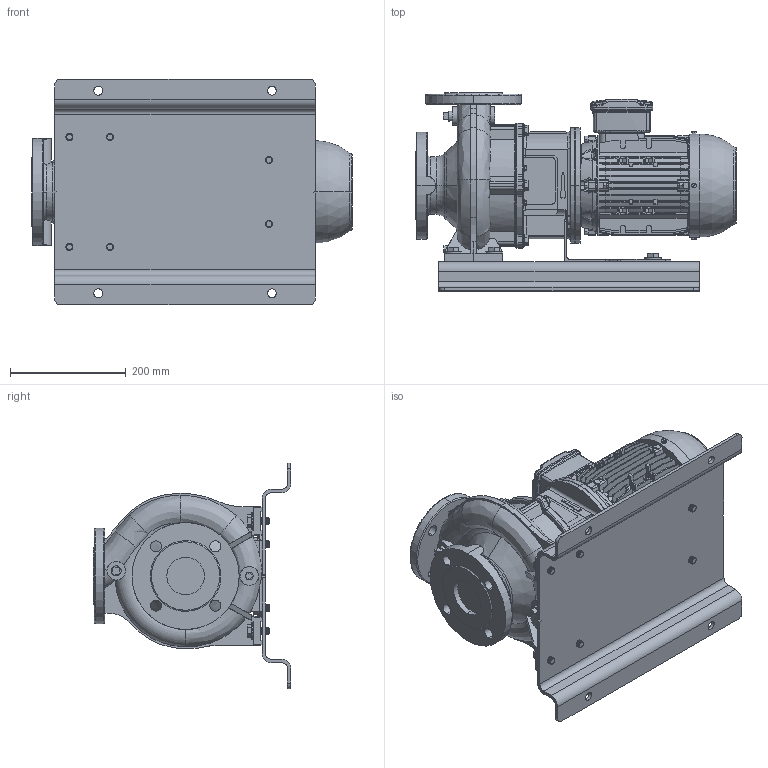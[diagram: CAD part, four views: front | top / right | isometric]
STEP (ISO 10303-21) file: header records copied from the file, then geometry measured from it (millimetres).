
FILE_DESCRIPTION (( 'STEP AP214' ), '1' );
FILE_NAME ('GSD4 50-125_1.1_(90SL)_W21_BP.STEP', '2024-08-12T05:36:04', ( '' ), ( '' ), 'SwSTEP 2.0', 'SolidWorks 2019', '' );
FILE_SCHEMA (( 'AUTOMOTIVE_DESIGN' ));
Length unit declared in the file: millimetre
Products named in the file (8): Parametric bolt_SFT-A295B; GSD4 50-125_1.1_(90SL)_W21_BP; Parametric bolt_SFT-A299B; 50-125-90S_L_______; N3S6 GSDA-361 F1-1832901-00; CGSD1-4133; 90S_L ALIE3_W21T_B5; Parametric Flat Washer_M12
Assembly tree (16 placements, depth 2):
  GSD4 50-125_1.1_(90SL)_W21_BP
    50-125-90S_L_______
    90S_L ALIE3_W21T_B5
    N3S6 GSDA-361 F1-1832901-00
    CGSD1-4133
    Parametric bolt_SFT-A299B  x4
    Parametric bolt_SFT-A295B  x2
    Parametric Flat Washer_M12  x6
Bounding box: 554 x 342 x 390 mm (x, y, z)
Volume: 13975301.6 mm3; surface area: 1525281.4 mm2
Topology: 19 solids, 23 shells, 3698 faces, 9736 edges, 6256 vertices
Faces by surface type: plane 1910, cylinder 1027, torus 287, bspline 273, cone 179, sphere 22
Entity records: 178122 total; most frequent: CARTESIAN_POINT 94668, ORIENTED_EDGE 18190, DIRECTION 16033, EDGE_CURVE 9095, VERTEX_POINT 5871, AXIS2_PLACEMENT_3D 5380, LINE 5273, VECTOR 5273
